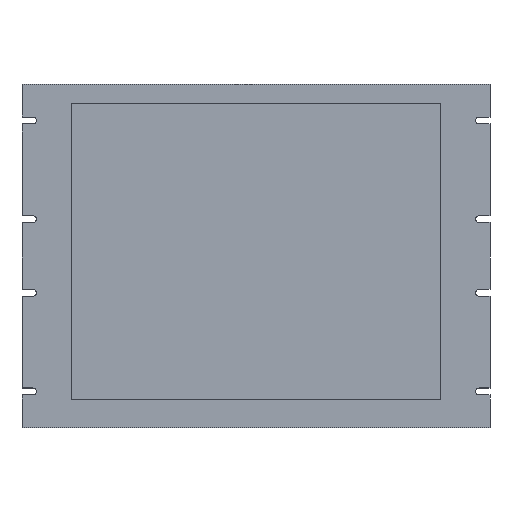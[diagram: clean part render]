
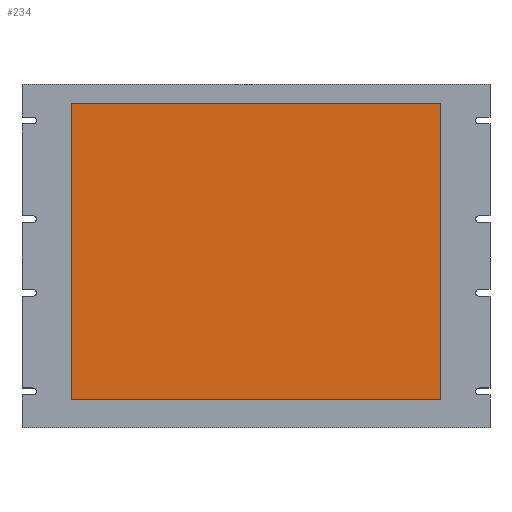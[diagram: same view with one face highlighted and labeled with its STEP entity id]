
A CAD part, top view. The second image highlights one B-rep face of the part: STEP entity #234.
In plain terms, the highlighted planar face has unit normal (0, 0, 1).
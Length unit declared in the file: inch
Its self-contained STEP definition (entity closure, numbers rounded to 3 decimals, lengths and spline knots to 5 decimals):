
#163 = ORIENTED_EDGE ( 'NONE', *, *, #5421, .T. ) ;
#234 = ADVANCED_FACE ( 'NONE', ( #5853 ), #726, .T. ) ;
#726 = PLANE ( 'NONE',  #3439 ) ;
#872 = VERTEX_POINT ( 'NONE', #3307 ) ;
#874 = CARTESIAN_POINT ( 'NONE',  ( -7.497, -5.831, 0. ) ) ;
#1156 = EDGE_CURVE ( 'NONE', #872, #5618, #2210, .T. ) ;
#1158 = VECTOR ( 'NONE', #4754, 39.37008 ) ;
#1245 = VERTEX_POINT ( 'NONE', #3040 ) ;
#1459 = LINE ( 'NONE', #2737, #2622 ) ;
#1701 = CARTESIAN_POINT ( 'NONE',  ( 0., 0., 0. ) ) ;
#1858 = DIRECTION ( 'NONE',  ( -1., 0., 0. ) ) ;
#1877 = CARTESIAN_POINT ( 'NONE',  ( 7.497, -5.831, 0. ) ) ;
#2050 = ORIENTED_EDGE ( 'NONE', *, *, #5817, .T. ) ;
#2210 = LINE ( 'NONE', #874, #4198 ) ;
#2364 = CARTESIAN_POINT ( 'NONE',  ( -7.497, 6.201, 0. ) ) ;
#2369 = VECTOR ( 'NONE', #4608, 39.37008 ) ;
#2622 = VECTOR ( 'NONE', #1858, 39.37008 ) ;
#2737 = CARTESIAN_POINT ( 'NONE',  ( 7.497, 6.201, 0. ) ) ;
#2782 = EDGE_CURVE ( 'NONE', #5618, #1245, #6339, .T. ) ;
#3040 = CARTESIAN_POINT ( 'NONE',  ( 7.497, 6.201, 0. ) ) ;
#3307 = CARTESIAN_POINT ( 'NONE',  ( -7.497, -5.831, 0. ) ) ;
#3439 = AXIS2_PLACEMENT_3D ( 'NONE', #1701, #5626, #3660 ) ;
#3660 = DIRECTION ( 'NONE',  ( 1., 0., 0. ) ) ;
#3688 = VERTEX_POINT ( 'NONE', #2364 ) ;
#4067 = CARTESIAN_POINT ( 'NONE',  ( -7.497, 6.201, 0. ) ) ;
#4198 = VECTOR ( 'NONE', #6212, 39.37008 ) ;
#4327 = ORIENTED_EDGE ( 'NONE', *, *, #2782, .T. ) ;
#4608 = DIRECTION ( 'NONE',  ( 0., 1., 0. ) ) ;
#4614 = CARTESIAN_POINT ( 'NONE',  ( 7.497, -5.831, 0. ) ) ;
#4754 = DIRECTION ( 'NONE',  ( 0., -1., 0. ) ) ;
#5068 = LINE ( 'NONE', #4067, #1158 ) ;
#5358 = EDGE_LOOP ( 'NONE', ( #4327, #2050, #163, #5440 ) ) ;
#5421 = EDGE_CURVE ( 'NONE', #3688, #872, #5068, .T. ) ;
#5440 = ORIENTED_EDGE ( 'NONE', *, *, #1156, .T. ) ;
#5618 = VERTEX_POINT ( 'NONE', #1877 ) ;
#5626 = DIRECTION ( 'NONE',  ( 0., 0., 1. ) ) ;
#5817 = EDGE_CURVE ( 'NONE', #1245, #3688, #1459, .T. ) ;
#5853 = FACE_OUTER_BOUND ( 'NONE', #5358, .T. ) ;
#6212 = DIRECTION ( 'NONE',  ( 1., 0., 0. ) ) ;
#6339 = LINE ( 'NONE', #4614, #2369 ) ;
